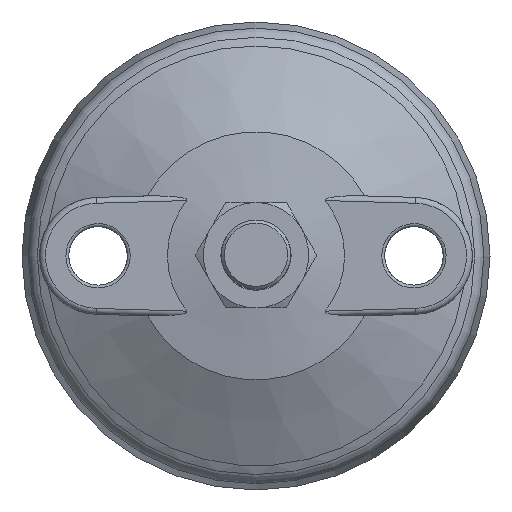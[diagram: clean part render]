
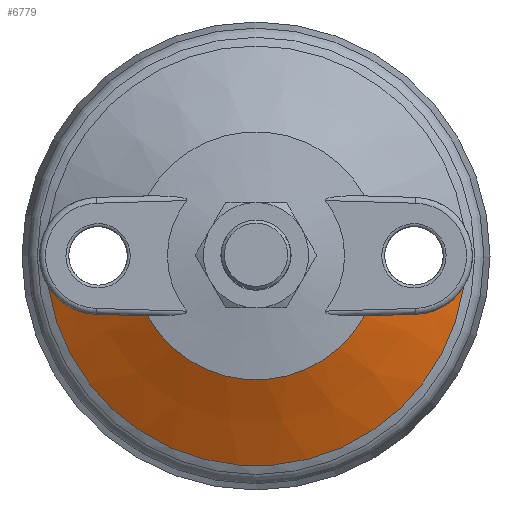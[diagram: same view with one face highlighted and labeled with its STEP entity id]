
A CAD part, top view. The second image highlights one B-rep face of the part: STEP entity #6779.
In plain terms, the highlighted conical face has half-angle 62.726 degrees and reference radius 28.529 mm.
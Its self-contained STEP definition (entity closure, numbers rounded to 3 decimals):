
#12=ELLIPSE('',#7248,2.159,0.747);
#13=ELLIPSE('',#7251,2.248,0.806);
#56=B_SPLINE_CURVE_WITH_KNOTS('',3,(#10436,#10437,#10438,#10439,#10440,
#10441,#10442,#10443,#10444,#10445),.UNSPECIFIED.,.F.,.F.,(4,2,2,2,4),(2.555,
2.732,2.974,3.492,3.568),
 .UNSPECIFIED.);
#58=B_SPLINE_CURVE_WITH_KNOTS('',3,(#10507,#10508,#10509,#10510,#10511,
#10512,#10513,#10514,#10515,#10516),.UNSPECIFIED.,.F.,.F.,(4,2,2,2,4),(0.442,
0.518,1.036,1.278,1.455),
 .UNSPECIFIED.);
#222=(
BOUNDED_CURVE()
B_SPLINE_CURVE(2,(#10502,#10503,#10504),.UNSPECIFIED.,.F.,.F.)
B_SPLINE_CURVE_WITH_KNOTS((3,3),(-1.407,-0.341),
 .UNSPECIFIED.)
CURVE()
GEOMETRIC_REPRESENTATION_ITEM()
RATIONAL_B_SPLINE_CURVE((1.033,1.041,1.018))
REPRESENTATION_ITEM('')
);
#223=(
BOUNDED_CURVE()
B_SPLINE_CURVE(2,(#10518,#10519,#10520),.UNSPECIFIED.,.F.,.F.)
B_SPLINE_CURVE_WITH_KNOTS((3,3),(0.341,1.407),
 .UNSPECIFIED.)
CURVE()
GEOMETRIC_REPRESENTATION_ITEM()
RATIONAL_B_SPLINE_CURVE((1.018,1.041,1.033))
REPRESENTATION_ITEM('')
);
#513=CONICAL_SURFACE('',#7250,28.529,1.095);
#587=FACE_OUTER_BOUND('',#967,.T.);
#967=EDGE_LOOP('',(#4777,#4778,#4779,#4780,#4781,#4782,#4783,#4784));
#2561=CIRCLE('',#7231,35.868);
#2573=CIRCLE('',#7252,21.189);
#2874=VERTEX_POINT('',#10386);
#2875=VERTEX_POINT('',#10401);
#2880=VERTEX_POINT('',#10435);
#2892=VERTEX_POINT('',#10475);
#2893=VERTEX_POINT('',#10477);
#2894=VERTEX_POINT('',#10506);
#2895=VERTEX_POINT('',#10517);
#2896=VERTEX_POINT('',#10521);
#3598=EDGE_CURVE('',#2875,#2874,#2561,.T.);
#3604=EDGE_CURVE('',#2875,#2880,#56,.T.);
#3620=EDGE_CURVE('',#2893,#2892,#12,.T.);
#3622=EDGE_CURVE('',#2880,#2892,#222,.T.);
#3623=EDGE_CURVE('',#2894,#2874,#58,.T.);
#3624=EDGE_CURVE('',#2895,#2894,#223,.T.);
#3625=EDGE_CURVE('',#2895,#2896,#13,.T.);
#3626=EDGE_CURVE('',#2893,#2896,#2573,.T.);
#4777=ORIENTED_EDGE('',*,*,#3620,.T.);
#4778=ORIENTED_EDGE('',*,*,#3622,.F.);
#4779=ORIENTED_EDGE('',*,*,#3604,.F.);
#4780=ORIENTED_EDGE('',*,*,#3598,.T.);
#4781=ORIENTED_EDGE('',*,*,#3623,.F.);
#4782=ORIENTED_EDGE('',*,*,#3624,.F.);
#4783=ORIENTED_EDGE('',*,*,#3625,.T.);
#4784=ORIENTED_EDGE('',*,*,#3626,.F.);
#6779=ADVANCED_FACE('',(#587),#513,.T.);
#7231=AXIS2_PLACEMENT_3D('',#10402,#8009,#8010);
#7248=AXIS2_PLACEMENT_3D('',#10478,#8050,#8051);
#7250=AXIS2_PLACEMENT_3D('',#10505,#8054,#8055);
#7251=AXIS2_PLACEMENT_3D('',#10522,#8056,#8057);
#7252=AXIS2_PLACEMENT_3D('',#10523,#8058,#8059);
#8009=DIRECTION('center_axis',(0.,0.,1.));
#8010=DIRECTION('ref_axis',(-0.989,-0.148,0.));
#8050=DIRECTION('center_axis',(0.403,0.195,-0.894));
#8051=DIRECTION('ref_axis',(-0.915,0.092,-0.392));
#8054=DIRECTION('center_axis',(0.,0.,-1.));
#8055=DIRECTION('ref_axis',(0.,-1.,0.));
#8056=DIRECTION('center_axis',(-0.403,0.195,-0.894));
#8057=DIRECTION('ref_axis',(-0.915,-0.098,0.391));
#8058=DIRECTION('center_axis',(0.,0.,1.));
#8059=DIRECTION('ref_axis',(-0.875,-0.484,0.));
#10386=CARTESIAN_POINT('',(35.472,-5.312,12.042));
#10401=CARTESIAN_POINT('',(-35.472,-5.312,12.042));
#10402=CARTESIAN_POINT('Origin',(0.,0.,12.042));
#10435=CARTESIAN_POINT('',(-27.291,-9.996,15.55));
#10436=CARTESIAN_POINT('Ctrl Pts',(-35.472,-5.312,
12.042));
#10437=CARTESIAN_POINT('Ctrl Pts',(-35.153,-5.821,
12.166));
#10438=CARTESIAN_POINT('Ctrl Pts',(-34.79,-6.298,
12.308));
#10439=CARTESIAN_POINT('Ctrl Pts',(-33.85,-7.33,
12.682));
#10440=CARTESIAN_POINT('Ctrl Pts',(-33.243,-7.849,12.927));
#10441=CARTESIAN_POINT('Ctrl Pts',(-31.259,-9.194,13.748));
#10442=CARTESIAN_POINT('Ctrl Pts',(-29.643,-9.783,
14.445));
#10443=CARTESIAN_POINT('Ctrl Pts',(-27.77,-9.973,
15.322));
#10444=CARTESIAN_POINT('Ctrl Pts',(-27.53,-9.989,15.435));
#10445=CARTESIAN_POINT('Ctrl Pts',(-27.291,-9.996,15.55));
#10475=CARTESIAN_POINT('',(-18.567,-10.25,19.6));
#10477=CARTESIAN_POINT('',(-18.545,-10.251,19.61));
#10478=CARTESIAN_POINT('Origin',(-18.937,-9.496,19.597));
#10502=CARTESIAN_POINT('Ctrl Pts',(-27.291,-9.996,
15.55));
#10503=CARTESIAN_POINT('Ctrl Pts',(-22.248,-10.143,17.966));
#10504=CARTESIAN_POINT('Ctrl Pts',(-18.567,-10.25,
19.6));
#10505=CARTESIAN_POINT('Origin',(0.,0.,15.826));
#10506=CARTESIAN_POINT('',(27.291,-9.996,15.55));
#10507=CARTESIAN_POINT('Ctrl Pts',(27.291,-9.996,15.55));
#10508=CARTESIAN_POINT('Ctrl Pts',(27.53,-9.989,15.435));
#10509=CARTESIAN_POINT('Ctrl Pts',(27.77,-9.973,15.322));
#10510=CARTESIAN_POINT('Ctrl Pts',(29.643,-9.783,14.445));
#10511=CARTESIAN_POINT('Ctrl Pts',(31.259,-9.194,13.748));
#10512=CARTESIAN_POINT('Ctrl Pts',(33.243,-7.849,12.927));
#10513=CARTESIAN_POINT('Ctrl Pts',(33.85,-7.33,12.682));
#10514=CARTESIAN_POINT('Ctrl Pts',(34.79,-6.298,12.308));
#10515=CARTESIAN_POINT('Ctrl Pts',(35.153,-5.821,12.166));
#10516=CARTESIAN_POINT('Ctrl Pts',(35.472,-5.312,12.042));
#10517=CARTESIAN_POINT('',(18.567,-10.25,19.6));
#10518=CARTESIAN_POINT('Ctrl Pts',(18.567,-10.25,19.6));
#10519=CARTESIAN_POINT('Ctrl Pts',(22.248,-10.143,17.966));
#10520=CARTESIAN_POINT('Ctrl Pts',(27.291,-9.996,15.55));
#10521=CARTESIAN_POINT('',(18.545,-10.251,19.61));
#10522=CARTESIAN_POINT('Origin',(18.969,-9.435,19.597));
#10523=CARTESIAN_POINT('Origin',(0.,0.,19.61));
